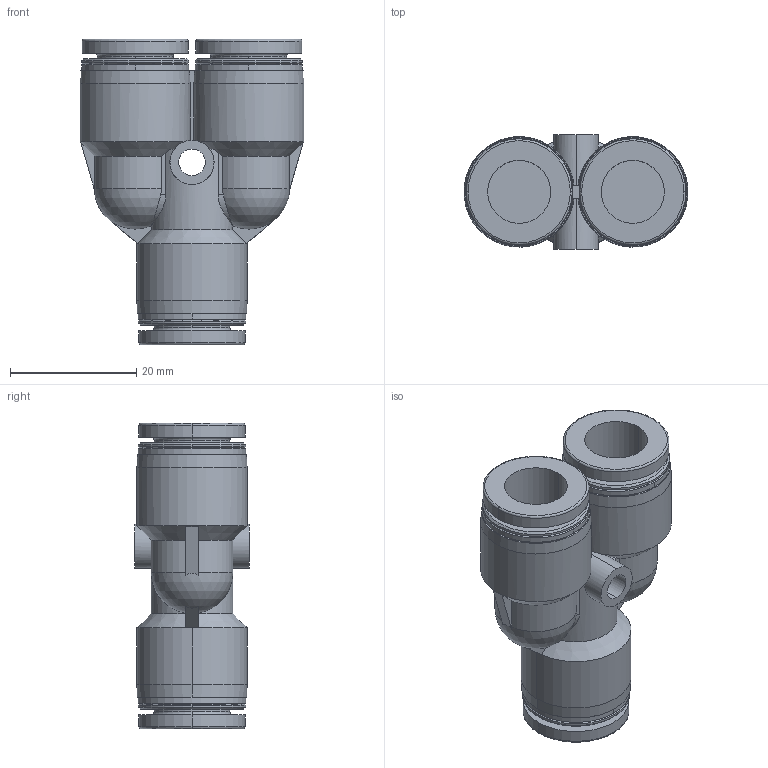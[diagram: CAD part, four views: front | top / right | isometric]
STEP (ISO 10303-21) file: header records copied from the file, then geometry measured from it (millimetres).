
FILE_DESCRIPTION(/* description */ ('AP214 STEP file'),/* implementation_level */ '2;1');
FILE_NAME(/* name */ 'PY10_',/* time_stamp */ '2015-12-22T13:04:40+09:00',/* author */ (''),/* organization */ (''),/* preprocessor_version */ '.stp',/* originating_system */ 'UNIGRAPHICS',/* authorisation */ '');
FILE_SCHEMA (('AUTOMOTIVE_DESIGN'));
Length unit declared in the file: millimetre
Products named in the file (1): PY10_
Bounding box: 35.44 x 18.2 x 48.4 mm (x, y, z)
Volume: 11214.1 mm3; surface area: 7666 mm2
Topology: 1 solids, 1 shells, 134 faces, 332 edges, 212 vertices
Faces by surface type: cylinder 50, plane 38, cone 32, torus 12, sphere 2
Entity records: 3869 total; most frequent: CARTESIAN_POINT 846, ORIENTED_EDGE 664, EDGE_CURVE 332, STYLED_ITEM 332, AXIS2_PLACEMENT_3D 307, VERTEX_POINT 212, CIRCLE 168, EDGE_LOOP 148
